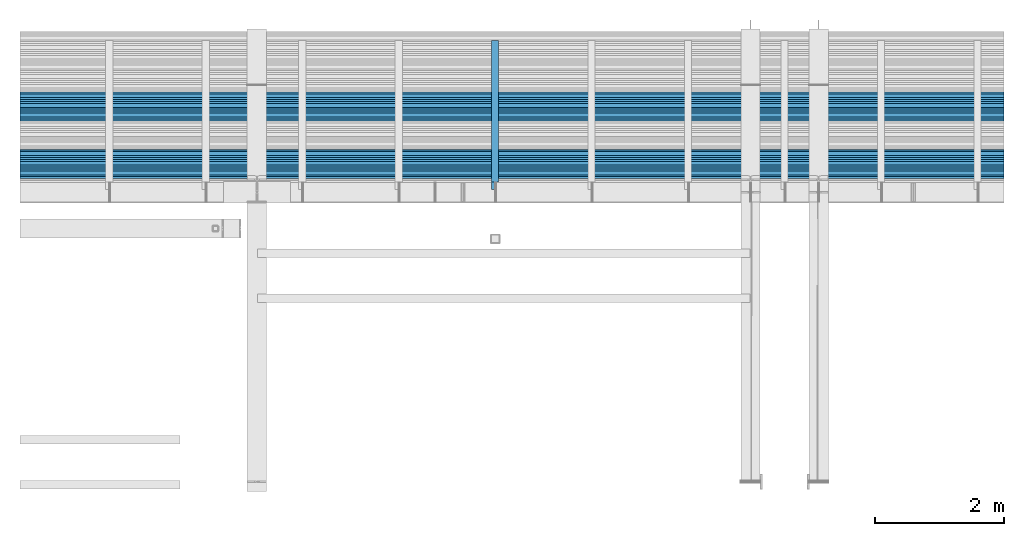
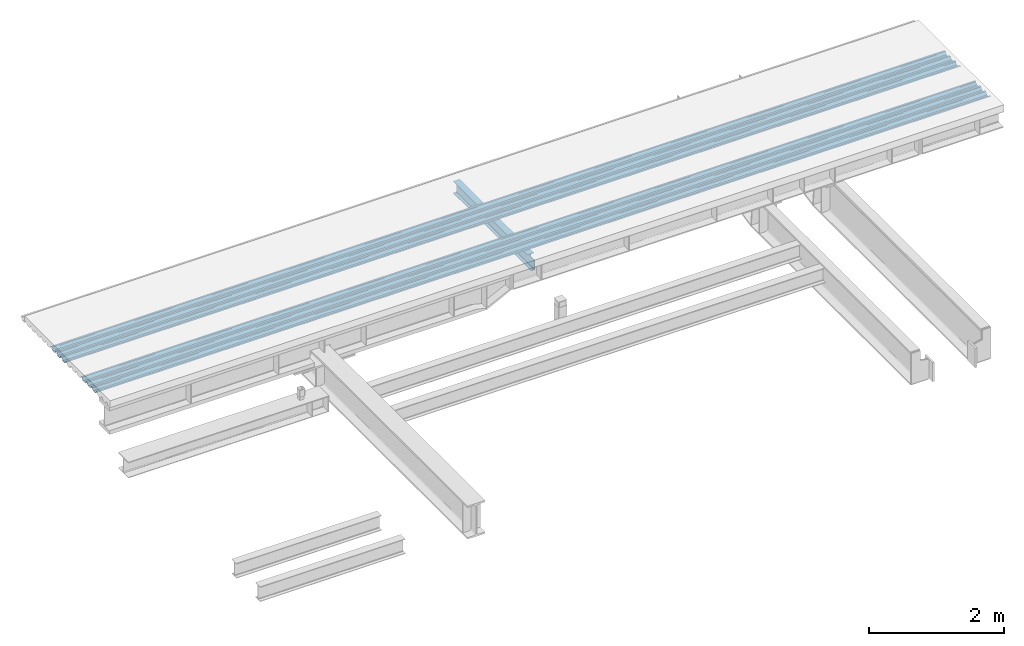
# One storey, part 8 of 12: 3 beams.
"""IFC2X3 building model written with IfcOpenShell, lengths in millimetres."""

import ifcopenshell
import ifcopenshell.guid

model = None  # the IFC model being written
_history = None  # IfcOwnerHistory: only IFC2X3 demands one
_inside = {}  # id of a spatial element -> (the spatial element, [elements in it])
_under = {}  # id of a project, library or spatial element -> (it, [spatial elements below it])
_declared = {}  # id of a project -> (the project, [libraries it declares])
_typed = {}  # id of a type object -> (the type object, [elements of that type])
_made_of = {}  # id of a material, layer set ... -> (it, [elements and type objects made of it])


def new_model(schema):
    """Start an empty IFC model of exactly this schema.

    Asked for "IFC4X3", IfcOpenShell would pick the latest addendum, in which some entities
    have other attributes; the version numbers below select the first issue.
    IFC2X3 requires an IfcOwnerHistory on every rooted entity: one is made here for all.
    """
    global model, _history
    if schema == "IFC4X3":
        model = ifcopenshell.file(schema_version=(4, 3, 0, 0))
    else:
        model = ifcopenshell.file(schema=schema)
    _inside.clear()
    _under.clear()
    _declared.clear()
    _typed.clear()
    _made_of.clear()
    _history = None
    if model.schema == "IFC2X3":
        org = make("IfcOrganization", Name="unknown")
        user = make(
            "IfcPersonAndOrganization",
            ThePerson=make("IfcPerson", FamilyName="unknown"),
            TheOrganization=org,
        )
        app = make(
            "IfcApplication",
            ApplicationDeveloper=org,
            Version="unknown",
            ApplicationFullName="unknown",
            ApplicationIdentifier="unknown",
        )
        _history = make(
            "IfcOwnerHistory",
            OwningUser=user,
            OwningApplication=app,
            ChangeAction="ADDED",
            CreationDate=0,
        )
    return model


def make(cls, **values):
    """One entity of the class cls with the attributes given. An attribute that is None is left unset."""
    return model.create_entity(
        cls, **{name: value for name, value in values.items() if value is not None}
    )


def entity(cls, *values):
    """Any entity or typed value of the class cls, its attributes in the order of the schema. None: left unset."""
    e = model.create_entity(cls)
    for i, value in enumerate(values):
        if value is not None:
            e[i] = value
    return e


def rooted(cls, **values):
    """An entity with a GlobalId (a new one), such as an element, a storey or a relation."""
    return make(cls, GlobalId=ifcopenshell.guid.new(), OwnerHistory=_history, **values)


def si_unit(unit_type, name, prefix=None):
    """IfcSIUnit, for example si_unit("LENGTHUNIT", "METRE", prefix="MILLI")."""
    return make("IfcSIUnit", UnitType=unit_type, Prefix=prefix, Name=name)


def converted_unit(unit_type, name, factor, base, dimensions=None, offset=None):
    """IfcConversionBasedUnit, such as the inch: factor (a typed value) times the base unit."""
    return make(
        "IfcConversionBasedUnit"
        if offset is None
        else "IfcConversionBasedUnitWithOffset",
        ConversionOffset=offset,
        Dimensions=None
        if dimensions is None
        else entity("IfcDimensionalExponents", *dimensions),
        UnitType=unit_type,
        Name=name,
        ConversionFactor=make(
            "IfcMeasureWithUnit", ValueComponent=factor, UnitComponent=base
        ),
    )


def derived_unit(unit_type, elements):
    """IfcDerivedUnit: a product of units, each with its exponent."""
    return make(
        "IfcDerivedUnit",
        Elements=[
            make("IfcDerivedUnitElement", Unit=unit, Exponent=power)
            for unit, power in elements
        ],
        UnitType=unit_type,
    )


def assignment(units):
    """IfcUnitAssignment: the units of a project."""
    return None if units is None else make("IfcUnitAssignment", Units=units)


def point(xyz):
    """IfcCartesianPoint."""
    return None if xyz is None else make("IfcCartesianPoint", Coordinates=xyz)


def direction(xyz):
    """IfcDirection."""
    return None if xyz is None else make("IfcDirection", DirectionRatios=xyz)


def frame(location, z_axis=None, x_axis=None):
    """IfcAxis2Placement3D, a coordinate frame: its origin and axes. An axis left out is left unset."""
    return make(
        "IfcAxis2Placement3D",
        Location=point(location),
        Axis=direction(z_axis),
        RefDirection=direction(x_axis),
    )


def origin_with_axes():
    """The frame at (0, 0, 0) with the z axis (0, 0, 1) and the x axis (1, 0, 0) written out."""
    return frame((0.0, 0.0, 0.0), z_axis=(0.0, 0.0, 1.0), x_axis=(1.0, 0.0, 0.0))


def place(relative_to, where):
    """IfcLocalPlacement: puts the frame where relative to a parent placement (None: the world)."""
    return make(
        "IfcLocalPlacement", PlacementRelTo=relative_to, RelativePlacement=where
    )


def context(
    kind, dimensions, precision=None, world=None, true_north=None, identifier=None
):
    """IfcGeometricRepresentationContext, for example the 3D "Model" context."""
    return make(
        "IfcGeometricRepresentationContext",
        ContextIdentifier=identifier,
        ContextType=kind,
        CoordinateSpaceDimension=dimensions,
        Precision=precision,
        WorldCoordinateSystem=world,
        TrueNorth=true_north,
    )


def subcontext(parent, identifier, kind, view, scale=None):
    """IfcGeometricRepresentationSubContext, for example "Body" below "Model"."""
    return make(
        "IfcGeometricRepresentationSubContext",
        ContextIdentifier=identifier,
        ContextType=kind,
        ParentContext=parent,
        TargetScale=scale,
        TargetView=view,
    )


def project(units=None, contexts=None):
    """IfcProject with its units and contexts."""
    return rooted(
        "IfcProject",
        Name="project",
        RepresentationContexts=contexts,
        UnitsInContext=assignment(units),
    )


def spatial(cls, under=None, at=None, **own):
    """A site, building, storey or space (cls), placed at a placement, below another one or the project."""
    s = rooted(cls, ObjectPlacement=at, **own)
    if under is not None:
        _under.setdefault(under.id(), (under, []))[1].append(s)
    return s


def faces_of(points, faces, orient=None, outer=None):
    """IfcFace entities. A face is a list of loops; a loop is a list of indices into points, from 0.

    orient and outer hold one flag for each loop. By default every Orientation is true, the
    first loop of a face is its IfcFaceOuterBound and the others are IfcFaceBound.
    """
    made = []
    for i, loops in enumerate(faces):
        bounds = []
        for j, loop in enumerate(loops):
            is_outer = j == 0 if outer is None else outer[i][j]
            bounds.append(
                make(
                    "IfcFaceOuterBound" if is_outer else "IfcFaceBound",
                    Bound=make("IfcPolyLoop", Polygon=[points[k] for k in loop]),
                    Orientation=True if orient is None else orient[i][j],
                )
            )
        made.append(make("IfcFace", Bounds=bounds))
    return made


def faceted_brep(points, faces, orient=None, outer=None, voids=None):
    """IfcFacetedBrep: a solid bounded by flat faces; with voids (closed shells), ...WithVoids."""
    shared = [point(p) for p in points]
    hull = make("IfcClosedShell", CfsFaces=faces_of(shared, faces, orient, outer))
    if voids is None:
        return make("IfcFacetedBrep", Outer=hull)
    return make(
        "IfcFacetedBrepWithVoids",
        Outer=hull,
        Voids=[
            make(cls, CfsFaces=faces_of(shared, fs, o, b)) for cls, fs, o, b in voids
        ],
    )


def shape(context_of_items, identifier, shape_type, items):
    """IfcShapeRepresentation: the items that make up one representation, for example the "Body"."""
    return make(
        "IfcShapeRepresentation",
        ContextOfItems=context_of_items,
        RepresentationIdentifier=identifier,
        RepresentationType=shape_type,
        Items=items,
    )


def made_of(thing, what):
    """Note that an element or type object is made of a material, layer set ...; save() writes the relation."""
    if what is not None:
        _made_of.setdefault(what.id(), (what, []))[1].append(thing)
    return thing


def type_object(cls, material=None, **own):
    """A type object (cls), such as IfcWallType, which elements share."""
    return made_of(rooted(cls, **own), material)


def element(
    cls,
    number,
    at=None,
    inside=None,
    cuts=None,
    type_object=None,
    material=None,
    context=None,
    identifier="Body",
    shape_type=None,
    held_by="IfcProductDefinitionShape",
    body=None,
    shapes=None,
    **own,
):
    """One element of the class cls, such as IfcWall. Its Tag is "e" and its number.

    at: its placement. inside: the storey or other place that contains it. cuts: it is an
    opening in that element (IfcRelVoidsElement). A single representation is given by context,
    identifier, shape_type and body (its items); several are given by shapes. held_by: the class
    of the entity that holds the representations. save() writes the other relations.
    """
    e = rooted(cls, Tag="e%d" % number, ObjectPlacement=at, **own)
    if body is not None:
        shapes = [shape(context, identifier, shape_type, body)]
    if shapes is not None:
        e.Representation = make(held_by, Representations=shapes)
    if inside is not None:
        _inside.setdefault(inside.id(), (inside, []))[1].append(e)
    if cuts is not None:
        rooted(
            "IfcRelVoidsElement", RelatingBuildingElement=cuts, RelatedOpeningElement=e
        )
    if type_object is not None:
        _typed.setdefault(type_object.id(), (type_object, []))[1].append(e)
    return made_of(e, material)


def aggregate(whole, parts):
    """IfcRelAggregates: a whole, such as a stair, and the parts it consists of."""
    return rooted("IfcRelAggregates", RelatingObject=whole, RelatedObjects=parts)


def save(model, path):
    """Write the relations noted so far, then the file.

    IfcRelAggregates (storeys below a building ...), IfcRelContainedInSpatialStructure (elements
    in a storey), IfcRelDefinesByType, IfcRelAssociatesMaterial and IfcRelDeclares: one each for
    every whole, place, type object, material and project.
    """
    for whole, parts in _under.values():
        aggregate(whole, parts)
    for where, things in _inside.values():
        rooted(
            "IfcRelContainedInSpatialStructure",
            RelatedElements=things,
            RelatingStructure=where,
        )
    for kind, things in _typed.values():
        rooted("IfcRelDefinesByType", RelatedObjects=things, RelatingType=kind)
    for what, things in _made_of.values():
        rooted("IfcRelAssociatesMaterial", RelatedObjects=things, RelatingMaterial=what)
    for by, libraries in _declared.values():
        rooted("IfcRelDeclares", RelatingContext=by, RelatedDefinitions=libraries)
    model.write(path)


model = new_model("IFC2X3")

# Units and contexts
model_context = context("Model", 3, precision=0.01, world=frame((0.0, 4.29681676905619e-09, 0.0)), true_north=direction((4.01073788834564e-13, 1.0)))
plan_context = context("Plan", 3, precision=0.01, world=frame((0.0, 4.29681676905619e-09, 0.0)), true_north=direction((4.01073788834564e-13, 1.0)))
body_context = subcontext(model_context, "Body", "Model", "MODEL_VIEW")
ifc_project = project(units=[converted_unit("PLANEANGLEUNIT", "DEGREE", entity("IfcPositiveLengthMeasure", 0.0174532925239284), si_unit("PLANEANGLEUNIT", "RADIAN"), dimensions=[0, 0, 0, 0, 0, 0, 0]), si_unit("AREAUNIT", "SQUARE_METRE"), si_unit("LENGTHUNIT", "METRE", prefix="MILLI"), si_unit("MASSUNIT", "GRAM", prefix="KILO"), si_unit("POWERUNIT", "WATT"), si_unit("PRESSUREUNIT", "PASCAL"), si_unit("FORCEUNIT", "NEWTON", prefix="KILO"), si_unit("ELECTRICVOLTAGEUNIT", "VOLT"), si_unit("ELECTRICCURRENTUNIT", "AMPERE"), si_unit("THERMODYNAMICTEMPERATUREUNIT", "DEGREE_CELSIUS"), si_unit("TIMEUNIT", "SECOND"), si_unit("VOLUMEUNIT", "CUBIC_METRE"), derived_unit("LINEARVELOCITYUNIT", [(si_unit("LENGTHUNIT", "METRE"), 1), (si_unit("TIMEUNIT", "SECOND"), -1)]), derived_unit("VOLUMETRICFLOWRATEUNIT", [(si_unit("VOLUMEUNIT", "CUBIC_METRE"), 1), (si_unit("TIMEUNIT", "SECOND"), -1)]), derived_unit("THERMALTRANSMITTANCEUNIT", [(si_unit("POWERUNIT", "WATT"), 1), (si_unit("THERMODYNAMICTEMPERATUREUNIT", "KELVIN"), -1), (si_unit("AREAUNIT", "SQUARE_METRE"), -1)]), derived_unit("SOUNDPRESSUREUNIT", [(si_unit("PRESSUREUNIT", "PASCAL"), 1)])], contexts=[model_context, plan_context])

# Site, building, storey
site_placement = place(None, frame((0.0, -4.29681676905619e-09, 0.0), z_axis=(0.0, 0.0, 1.0), x_axis=(1.0, 0.0, 0.0)))
site = spatial("IfcSite", under=ifc_project, at=site_placement, Name="Gardermoen", CompositionType="ELEMENT")
building_placement = place(site_placement, frame((0.0, 4.29681676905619e-09, 0.0), z_axis=(0.0, 0.0, 1.0), x_axis=(1.0, 0.0, 0.0)))
building = spatial("IfcBuilding", under=site, at=building_placement, Name="TH", CompositionType="ELEMENT")
storey_placement = place(building_placement, origin_with_axes())
storey = spatial("IfcBuildingStorey", under=building, at=storey_placement, Name="D", CompositionType="ELEMENT", Elevation=0.0)

# Beams
beam_type_1 = type_object("IfcBeamType", Name="PLANNJACD45_V", PredefinedType="NOTDEFINED")
beam_1_placement = place(storey_placement, frame((886883.999840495, 486354.057463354, 210062.950002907), z_axis=(0.0, 0.0, 1.0), x_axis=(1.0, 0.0, 0.0)))
element("IfcBeam", 1, at=beam_1_placement, inside=storey, type_object=beam_type_1, Name="STÅLDEKKE", ObjectType="PLANNJACD45_V", context=body_context, shape_type="Brep", body=[
    faceted_brep([(8227.90632807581, 236.350005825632, 22.0499992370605), (8227.90632807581, 206.350005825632, 22.0499992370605), (23526.585001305, 206.350005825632, 22.0499992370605), (23526.585001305, 236.350005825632, 22.0499992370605), (8227.90632807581, 199.249999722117, 14.9499998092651), (23526.585001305, 199.249999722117, 14.9499998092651), (8227.90632807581, 206.749999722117, 7.44999980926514), (23526.585001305, 206.749999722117, 7.44999980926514), (8227.90632807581, 176.349990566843, -22.9500026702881), (23526.585001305, 176.349990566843, -22.9500026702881), (8227.90632807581, 116.34999819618, -22.9500026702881), (23526.585001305, 116.34999819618, -22.9500026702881), (8227.90632807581, 85.9499966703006, 7.44999694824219), (23526.585001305, 85.9499966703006, 7.44999694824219), (8227.90632807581, 93.4499966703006, 14.9499998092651), (23526.585001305, 93.4499966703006, 14.9499998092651), (8227.90632807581, 86.3499981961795, 22.0499992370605), (23526.585001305, 86.3499981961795, 22.0499992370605), (8227.90632807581, 56.3500020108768, 22.0499935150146), (23526.585001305, 56.3500020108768, 22.0499935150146), (8227.90632807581, 49.250007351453, 14.9499998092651), (23526.585001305, 49.250007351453, 14.9499998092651), (8227.90632807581, 56.750007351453, 7.45000219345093), (23526.585001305, 56.750007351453, 7.45000219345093), (8227.90632807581, 26.3500039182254, -22.9500007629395), (23526.585001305, 26.3500039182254, -22.9500007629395), (8227.90632807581, -33.6499979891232, -22.9500007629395), (23526.585001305, -33.6499979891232, -22.9500007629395), (8227.90632807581, -64.0499957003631, 7.45000219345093), (23526.585001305, -64.0499957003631, 7.45000219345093), (8227.90632807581, -56.5500033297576, 14.9499998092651), (23526.585001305, -56.5500033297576, 14.9499998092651), (8227.90632807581, -63.6499979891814, 22.0499935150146), (23526.585001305, -63.6499979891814, 22.0499935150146), (8227.90632807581, -93.6500094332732, 22.0499935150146), (23526.585001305, -93.6500094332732, 22.0499935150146), (8227.90632807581, -100.750000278, 14.9499998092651), (23526.585001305, -100.750000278, 14.9499998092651), (8227.90632807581, -93.2500079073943, 7.45000219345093), (23526.585001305, -93.2500079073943, 7.45000219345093), (8227.90632807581, -123.649994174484, -22.9499893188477), (23526.585001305, -123.649994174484, -22.9499893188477), (8227.90632807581, -183.650009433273, -22.9500007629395), (23526.585001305, -183.650009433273, -22.9500007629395), (8227.90632807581, -214.050003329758, 7.45000219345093), (23526.585001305, -214.050003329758, 7.45000219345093), (8227.90632807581, -206.550018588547, 14.9499998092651), (23526.585001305, -206.550018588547, 14.9499998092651), (8227.90632807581, -213.649994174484, 22.0499839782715), (23526.585001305, -213.649994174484, 22.0499839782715), (8227.90632807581, -243.650009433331, 22.0500049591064), (23526.585001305, -243.650009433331, 22.0500049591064), (8227.90632807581, -244.050003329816, 22.949987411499), (23526.585001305, -244.050003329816, 22.949987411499), (8227.90632807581, -213.250000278, 22.8500099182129), (23526.585001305, -213.250000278, 22.8500099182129), (8227.90632807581, -205.349991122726, 14.9499998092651), (23526.585001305, -205.349991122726, 14.9499998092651), (8227.90632807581, -212.849991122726, 7.45000219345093), (23526.585001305, -212.849991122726, 7.45000219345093), (8227.90632807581, -183.250000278, -22.0499973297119), (23526.585001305, -183.250000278, -22.0499973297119), (8227.90632807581, -124.049995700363, -22.149995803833), (23526.585001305, -124.049995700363, -22.149995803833), (8227.90632807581, -94.4500048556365, 7.45000219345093), (23526.585001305, -94.4500048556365, 7.45000219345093), (8227.90632807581, -101.949997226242, 14.9499998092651), (23526.585001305, -101.949997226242, 14.9499998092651), (8227.90632807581, -94.0499957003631, 22.9499969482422), (23526.585001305, -94.0499957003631, 22.9499969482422), (8227.90632807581, -63.2500040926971, 22.8500003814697), (23526.585001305, -63.2500040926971, 22.8500003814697), (8227.90632807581, -55.3500063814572, 14.9499998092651), (23526.585001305, -55.3500063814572, 14.9499998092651), (8227.90632807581, -62.8500025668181, 7.45000219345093), (23526.585001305, -62.8500025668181, 7.45000219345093), (8227.90632807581, -33.2500040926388, -22.0499973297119), (23526.585001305, -33.2500040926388, -22.0499973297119), (8227.90632807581, 25.949994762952, -22.1499996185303), (23526.585001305, 25.949994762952, -22.1499996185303), (8227.90632807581, 55.5499913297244, 7.44999694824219), (23526.585001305, 55.5499913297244, 7.44999694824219), (8227.90632807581, 48.0499913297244, 14.9499998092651), (23526.585001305, 48.0499913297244, 14.9499998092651), (8227.90632807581, 55.9499966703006, 22.9500026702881), (23526.585001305, 55.9499966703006, 22.9500026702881), (8227.90632807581, 86.7499920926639, 22.8500003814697), (23526.585001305, 86.7499920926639, 22.8500003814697), (8227.90632807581, 94.6499936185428, 14.9499998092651), (23526.585001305, 94.6499936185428, 14.9499998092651), (8227.90632807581, 87.1500012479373, 7.45000219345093), (23526.585001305, 87.1500012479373, 7.45000219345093), (8227.90632807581, 116.749999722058, -22.0499992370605), (23526.585001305, 116.749999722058, -22.0499992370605), (8227.90632807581, 175.949996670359, -22.1500015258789), (23526.585001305, 175.949996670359, -22.1500015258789), (8227.90632807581, 205.550002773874, 7.44999837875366), (23526.585001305, 205.550002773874, 7.44999837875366), (8227.90632807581, 198.050002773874, 14.9499998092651), (23526.585001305, 198.050002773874, 14.9499998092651), (8227.90632807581, 205.949996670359, 22.9500007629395), (23526.585001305, 205.949996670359, 22.9500007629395), (8227.90632807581, 236.749999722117, 22.8500003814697), (23526.585001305, 236.749999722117, 22.8500003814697), (8227.90632807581, 244.050002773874, 15.5499992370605), (23526.585001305, 244.050002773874, 15.5499992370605), (8227.90632807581, 243.449996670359, 14.9499998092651), (23526.585001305, 243.449996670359, 14.9499998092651)], [[[0, 1, 2, 3]], [[1, 4, 5, 2]], [[4, 6, 7, 5]], [[6, 8, 9, 7]], [[8, 10, 11, 9]], [[10, 12, 13, 11]], [[12, 14, 15, 13]], [[14, 16, 17, 15]], [[16, 18, 19, 17]], [[18, 20, 21, 19]], [[20, 22, 23, 21]], [[22, 24, 25, 23]], [[24, 26, 27, 25]], [[26, 28, 29, 27]], [[28, 30, 31, 29]], [[30, 32, 33, 31]], [[32, 34, 35, 33]], [[34, 36, 37, 35]], [[36, 38, 39, 37]], [[38, 40, 41, 39]], [[40, 42, 43, 41]], [[42, 44, 45, 43]], [[44, 46, 47, 45]], [[46, 48, 49, 47]], [[48, 50, 51, 49]], [[50, 52, 53, 51]], [[52, 54, 55, 53]], [[54, 56, 57, 55]], [[56, 58, 59, 57]], [[58, 60, 61, 59]], [[60, 62, 63, 61]], [[62, 64, 65, 63]], [[64, 66, 67, 65]], [[66, 68, 69, 67]], [[68, 70, 71, 69]], [[70, 72, 73, 71]], [[72, 74, 75, 73]], [[74, 76, 77, 75]], [[76, 78, 79, 77]], [[78, 80, 81, 79]], [[80, 82, 83, 81]], [[82, 84, 85, 83]], [[84, 86, 87, 85]], [[86, 88, 89, 87]], [[88, 90, 91, 89]], [[90, 92, 93, 91]], [[92, 94, 95, 93]], [[94, 96, 97, 95]], [[96, 98, 99, 97]], [[98, 100, 101, 99]], [[100, 102, 103, 101]], [[102, 104, 105, 103]], [[104, 106, 107, 105]], [[106, 0, 3, 107]], [[5, 7, 9, 11, 13, 15, 17, 19, 21, 23, 25, 27, 29, 31, 33, 35, 37, 39, 41, 43, 45, 47, 49, 51, 53, 55, 57, 59, 61, 63, 65, 67, 69, 71, 73, 75, 77, 79, 81, 83, 85, 87, 89, 91, 93, 95, 97, 99, 101, 103, 105, 107, 3, 2]], [[106, 104, 102, 100, 98, 96, 94, 92, 90, 88, 86, 84, 82, 80, 78, 76, 74, 72, 70, 68, 66, 64, 62, 60, 58, 56, 54, 52, 50, 48, 46, 44, 42, 40, 38, 36, 34, 32, 30, 28, 26, 24, 22, 20, 18, 16, 14, 12, 10, 8, 6, 4, 1, 0]]], orient=[[False], [False], [False], [False], [False], [False], [False], [False], [False], [False], [False], [False], [False], [False], [False], [False], [False], [False], [False], [False], [False], [False], [False], [False], [False], [False], [False], [False], [False], [False], [False], [False], [False], [False], [False], [False], [False], [False], [False], [False], [False], [False], [False], [False], [False], [False], [False], [False], [False], [False], [False], [False], [False], [False], [False], [False]]),
])
beam_2_placement = place(storey_placement, frame((886883.999840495, 485454.457463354, 210062.950002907), z_axis=(0.0, 0.0, 1.0), x_axis=(1.0, 0.0, 0.0)))
element("IfcBeam", 2, at=beam_2_placement, inside=storey, type_object=beam_type_1, Name="STÅLDEKKE", ObjectType="PLANNJACD45_V", context=body_context, shape_type="Brep", body=[
    faceted_brep([(8227.90632807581, 236.350005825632, 22.0499992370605), (8227.90632807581, 206.350005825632, 22.0499992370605), (23526.585001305, 206.350005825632, 22.0499992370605), (23526.585001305, 236.350005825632, 22.0499992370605), (8227.90632807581, 199.249999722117, 14.9499998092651), (23526.585001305, 199.249999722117, 14.9499998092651), (8227.90632807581, 206.749999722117, 7.44999980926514), (23526.585001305, 206.749999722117, 7.44999980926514), (8227.90632807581, 176.349990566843, -22.9500026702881), (23526.585001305, 176.349990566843, -22.9500026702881), (8227.90632807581, 116.34999819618, -22.9500026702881), (23526.585001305, 116.34999819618, -22.9500026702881), (8227.90632807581, 85.9499966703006, 7.44999694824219), (23526.585001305, 85.9499966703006, 7.44999694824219), (8227.90632807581, 93.4499966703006, 14.9499998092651), (23526.585001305, 93.4499966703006, 14.9499998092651), (8227.90632807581, 86.3499981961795, 22.0499992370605), (23526.585001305, 86.3499981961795, 22.0499992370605), (8227.90632807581, 56.3500020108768, 22.0499935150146), (23526.585001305, 56.3500020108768, 22.0499935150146), (8227.90632807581, 49.250007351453, 14.9499998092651), (23526.585001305, 49.250007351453, 14.9499998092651), (8227.90632807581, 56.750007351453, 7.45000219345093), (23526.585001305, 56.750007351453, 7.45000219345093), (8227.90632807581, 26.3500039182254, -22.9500007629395), (23526.585001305, 26.3500039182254, -22.9500007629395), (8227.90632807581, -33.6499979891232, -22.9500007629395), (23526.585001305, -33.6499979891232, -22.9500007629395), (8227.90632807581, -64.0499957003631, 7.45000219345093), (23526.585001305, -64.0499957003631, 7.45000219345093), (8227.90632807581, -56.5500033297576, 14.9499998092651), (23526.585001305, -56.5500033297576, 14.9499998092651), (8227.90632807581, -63.6499979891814, 22.0499935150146), (23526.585001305, -63.6499979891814, 22.0499935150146), (8227.90632807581, -93.6500094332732, 22.0499935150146), (23526.585001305, -93.6500094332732, 22.0499935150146), (8227.90632807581, -100.750000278, 14.9499998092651), (23526.585001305, -100.750000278, 14.9499998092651), (8227.90632807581, -93.2500079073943, 7.45000219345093), (23526.585001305, -93.2500079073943, 7.45000219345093), (8227.90632807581, -123.649994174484, -22.9499893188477), (23526.585001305, -123.649994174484, -22.9499893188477), (8227.90632807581, -183.650009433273, -22.9500007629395), (23526.585001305, -183.650009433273, -22.9500007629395), (8227.90632807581, -214.050003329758, 7.45000219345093), (23526.585001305, -214.050003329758, 7.45000219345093), (8227.90632807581, -206.550018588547, 14.9499998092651), (23526.585001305, -206.550018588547, 14.9499998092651), (8227.90632807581, -213.649994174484, 22.0499839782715), (23526.585001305, -213.649994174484, 22.0499839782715), (8227.90632807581, -243.650009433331, 22.0500049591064), (23526.585001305, -243.650009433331, 22.0500049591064), (8227.90632807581, -244.050003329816, 22.949987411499), (23526.585001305, -244.050003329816, 22.949987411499), (8227.90632807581, -213.250000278, 22.8500099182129), (23526.585001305, -213.250000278, 22.8500099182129), (8227.90632807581, -205.349991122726, 14.9499998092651), (23526.585001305, -205.349991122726, 14.9499998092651), (8227.90632807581, -212.849991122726, 7.45000219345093), (23526.585001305, -212.849991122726, 7.45000219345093), (8227.90632807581, -183.250000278, -22.0499973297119), (23526.585001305, -183.250000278, -22.0499973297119), (8227.90632807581, -124.049995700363, -22.149995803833), (23526.585001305, -124.049995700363, -22.149995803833), (8227.90632807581, -94.4500048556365, 7.45000219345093), (23526.585001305, -94.4500048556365, 7.45000219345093), (8227.90632807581, -101.949997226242, 14.9499998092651), (23526.585001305, -101.949997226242, 14.9499998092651), (8227.90632807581, -94.0499957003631, 22.9499969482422), (23526.585001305, -94.0499957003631, 22.9499969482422), (8227.90632807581, -63.2500040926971, 22.8500003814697), (23526.585001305, -63.2500040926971, 22.8500003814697), (8227.90632807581, -55.3500063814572, 14.9499998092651), (23526.585001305, -55.3500063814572, 14.9499998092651), (8227.90632807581, -62.8500025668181, 7.45000219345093), (23526.585001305, -62.8500025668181, 7.45000219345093), (8227.90632807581, -33.2500040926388, -22.0499973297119), (23526.585001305, -33.2500040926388, -22.0499973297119), (8227.90632807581, 25.949994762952, -22.1499996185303), (23526.585001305, 25.949994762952, -22.1499996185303), (8227.90632807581, 55.5499913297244, 7.44999694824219), (23526.585001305, 55.5499913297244, 7.44999694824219), (8227.90632807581, 48.0499913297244, 14.9499998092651), (23526.585001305, 48.0499913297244, 14.9499998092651), (8227.90632807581, 55.9499966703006, 22.9500026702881), (23526.585001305, 55.9499966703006, 22.9500026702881), (8227.90632807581, 86.7499920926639, 22.8500003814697), (23526.585001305, 86.7499920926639, 22.8500003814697), (8227.90632807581, 94.6499936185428, 14.9499998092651), (23526.585001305, 94.6499936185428, 14.9499998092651), (8227.90632807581, 87.1500012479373, 7.45000219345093), (23526.585001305, 87.1500012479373, 7.45000219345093), (8227.90632807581, 116.749999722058, -22.0499992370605), (23526.585001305, 116.749999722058, -22.0499992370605), (8227.90632807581, 175.949996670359, -22.1500015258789), (23526.585001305, 175.949996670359, -22.1500015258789), (8227.90632807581, 205.550002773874, 7.44999837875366), (23526.585001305, 205.550002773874, 7.44999837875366), (8227.90632807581, 198.050002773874, 14.9499998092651), (23526.585001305, 198.050002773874, 14.9499998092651), (8227.90632807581, 205.949996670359, 22.9500007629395), (23526.585001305, 205.949996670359, 22.9500007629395), (8227.90632807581, 236.749999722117, 22.8500003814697), (23526.585001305, 236.749999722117, 22.8500003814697), (8227.90632807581, 244.050002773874, 15.5499992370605), (23526.585001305, 244.050002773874, 15.5499992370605), (8227.90632807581, 243.449996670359, 14.9499998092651), (23526.585001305, 243.449996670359, 14.9499998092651)], [[[0, 1, 2, 3]], [[1, 4, 5, 2]], [[4, 6, 7, 5]], [[6, 8, 9, 7]], [[8, 10, 11, 9]], [[10, 12, 13, 11]], [[12, 14, 15, 13]], [[14, 16, 17, 15]], [[16, 18, 19, 17]], [[18, 20, 21, 19]], [[20, 22, 23, 21]], [[22, 24, 25, 23]], [[24, 26, 27, 25]], [[26, 28, 29, 27]], [[28, 30, 31, 29]], [[30, 32, 33, 31]], [[32, 34, 35, 33]], [[34, 36, 37, 35]], [[36, 38, 39, 37]], [[38, 40, 41, 39]], [[40, 42, 43, 41]], [[42, 44, 45, 43]], [[44, 46, 47, 45]], [[46, 48, 49, 47]], [[48, 50, 51, 49]], [[50, 52, 53, 51]], [[52, 54, 55, 53]], [[54, 56, 57, 55]], [[56, 58, 59, 57]], [[58, 60, 61, 59]], [[60, 62, 63, 61]], [[62, 64, 65, 63]], [[64, 66, 67, 65]], [[66, 68, 69, 67]], [[68, 70, 71, 69]], [[70, 72, 73, 71]], [[72, 74, 75, 73]], [[74, 76, 77, 75]], [[76, 78, 79, 77]], [[78, 80, 81, 79]], [[80, 82, 83, 81]], [[82, 84, 85, 83]], [[84, 86, 87, 85]], [[86, 88, 89, 87]], [[88, 90, 91, 89]], [[90, 92, 93, 91]], [[92, 94, 95, 93]], [[94, 96, 97, 95]], [[96, 98, 99, 97]], [[98, 100, 101, 99]], [[100, 102, 103, 101]], [[102, 104, 105, 103]], [[104, 106, 107, 105]], [[106, 0, 3, 107]], [[5, 7, 9, 11, 13, 15, 17, 19, 21, 23, 25, 27, 29, 31, 33, 35, 37, 39, 41, 43, 45, 47, 49, 51, 53, 55, 57, 59, 61, 63, 65, 67, 69, 71, 73, 75, 77, 79, 81, 83, 85, 87, 89, 91, 93, 95, 97, 99, 101, 103, 105, 107, 3, 2]], [[106, 104, 102, 100, 98, 96, 94, 92, 90, 88, 86, 84, 82, 80, 78, 76, 74, 72, 70, 68, 66, 64, 62, 60, 58, 56, 54, 52, 50, 48, 46, 44, 42, 40, 38, 36, 34, 32, 30, 28, 26, 24, 22, 20, 18, 16, 14, 12, 10, 8, 6, 4, 1, 0]]], orient=[[False], [False], [False], [False], [False], [False], [False], [False], [False], [False], [False], [False], [False], [False], [False], [False], [False], [False], [False], [False], [False], [False], [False], [False], [False], [False], [False], [False], [False], [False], [False], [False], [False], [False], [False], [False], [False], [False], [False], [False], [False], [False], [False], [False], [False], [False], [False], [False], [False], [False], [False], [False], [False], [False], [False], [False]]),
])
beam_type_2 = type_object("IfcBeamType", Name="IPE220", PredefinedType="NOTDEFINED")
beam_3_placement = place(storey_placement, frame((902499.999781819, 484999.995625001, 209930.0), z_axis=(0.0, 0.0, 1.0), x_axis=(0.0, 1.0, 0.0)))
element("IfcBeam", 3, at=beam_3_placement, inside=storey, type_object=beam_type_2, Name="STÅLBJELKE", ObjectType="IPE220", context=body_context, shape_type="Brep", body=[
    faceted_brep([(2357.65437500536, -55.0, -110.0), (2357.65437500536, 55.0, -110.0), (39.9999999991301, 55.0, -110.0), (39.9999999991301, -2.95000004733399, -110.0), (159.99999999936, -2.95000004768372, -110.0), (159.99999999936, -55.0, -110.0), (2357.65437500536, -55.0, -100.800000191), (159.99999999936, -55.0, -100.800000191), (2357.65437500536, -14.9500000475, -100.800000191), (159.99999999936, -14.9500000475, -100.800000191), (2357.65437500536, -12.6089161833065, -100.569423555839), (159.99999999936, -12.6089161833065, -100.569423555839), (2357.65437500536, -10.3577988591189, -99.8865545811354), (159.99999999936, -10.3577988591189, -99.8865545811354), (2357.65437500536, -8.28315725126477, -98.7776355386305), (159.99999999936, -8.28315725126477, -98.7776355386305), (2357.65437500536, -6.46471867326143, -97.2852815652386), (159.99999999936, -6.46471867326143, -97.2852815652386), (2357.65437500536, -4.97236469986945, -95.4668429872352), (159.99999999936, -4.97236469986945, -95.4668429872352), (2357.65437500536, -3.86344565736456, -93.3922013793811), (159.99999999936, -3.86344565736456, -93.3922013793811), (2357.65437500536, -3.18057668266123, -91.1410840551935), (159.99999999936, -3.18057668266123, -91.1410840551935), (2357.65437500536, -2.9500000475, -88.800000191), (159.99999999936, -2.96969830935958, -89.0), (39.9999999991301, -2.96969830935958, -89.0), (39.9999999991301, -2.9500000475, -88.800000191), (2357.65437500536, -2.9500000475, 88.800000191), (39.9999999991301, -2.9500000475, 70.0), (149.999999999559, -2.9500000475, 69.9999999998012), (151.564344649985, -2.9500000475, 70.1231165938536), (153.090169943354, -2.9500000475, 70.4894348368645), (154.539904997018, -2.9500000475, 71.0899347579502), (155.877852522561, -2.9500000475, 71.9098300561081), (157.071067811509, -2.9500000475, 72.9289321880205), (158.090169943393, -2.9500000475, 74.1221474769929), (158.910065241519, -2.9500000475, 75.4600950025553), (159.510565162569, -2.9500000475, 76.9098300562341), (159.876883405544, -2.9500000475, 78.435655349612), (159.999999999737, -2.9500000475, 79.999999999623), (159.999999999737, -2.9500000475, 88.800000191), (2357.65437500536, -3.18057668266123, 91.1410840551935), (159.999999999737, -3.18057668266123, 91.1410840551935), (2357.65437500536, -3.86344565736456, 93.3922013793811), (159.999999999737, -3.86344565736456, 93.3922013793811), (2357.65437500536, -4.97236469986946, 95.4668429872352), (159.999999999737, -4.97236469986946, 95.4668429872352), (2357.65437500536, -6.46471867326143, 97.2852815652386), (159.999999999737, -6.46471867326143, 97.2852815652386), (2357.65437500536, -8.28315725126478, 98.7776355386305), (159.999999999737, -8.28315725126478, 98.7776355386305), (2357.65437500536, -10.3577988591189, 99.8865545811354), (159.999999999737, -10.3577988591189, 99.8865545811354), (2357.65437500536, -12.6089161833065, 100.569423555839), (159.999999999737, -12.6089161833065, 100.569423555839), (2357.65437500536, -14.9500000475, 100.800000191), (159.999999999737, -14.9500000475, 100.800000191), (2357.65437500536, -55.0, 100.800000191), (159.999999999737, -55.0, 100.800000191), (2357.65437500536, -55.0, 110.0), (159.999999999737, -55.0, 110.0), (2357.65437500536, 55.0, 110.0), (159.999999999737, 55.0, 110.0), (2357.65437500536, 55.0, 100.800000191), (159.999999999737, 55.0, 100.800000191), (2357.65437500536, 14.9500000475, 100.800000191), (159.999999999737, 14.9500000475, 100.800000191), (2357.65437500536, 12.6089161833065, 100.569423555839), (159.999999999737, 12.6089161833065, 100.569423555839), (2357.65437500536, 10.3577988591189, 99.8865545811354), (159.999999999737, 10.3577988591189, 99.8865545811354), (2357.65437500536, 8.28315725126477, 98.7776355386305), (159.999999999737, 8.28315725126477, 98.7776355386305), (2357.65437500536, 6.46471867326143, 97.2852815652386), (159.999999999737, 6.46471867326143, 97.2852815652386), (2357.65437500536, 4.97236469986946, 95.4668429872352), (159.999999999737, 4.97236469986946, 95.4668429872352), (2357.65437500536, 3.86344565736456, 93.3922013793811), (159.999999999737, 3.86344565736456, 93.3922013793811), (2357.65437500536, 3.18057668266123, 91.1410840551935), (159.999999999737, 3.18057668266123, 91.1410840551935), (2357.65437500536, 2.9500000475, 88.800000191), (159.999999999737, 2.9500000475, 88.800000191), (2357.65437500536, 2.9500000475, -88.800000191), (159.999999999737, 2.95000004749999, 79.999999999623), (159.876883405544, 2.95000004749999, 78.435655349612), (159.510565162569, 2.95000004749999, 76.9098300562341), (158.910065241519, 2.95000004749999, 75.4600950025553), (158.090169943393, 2.95000004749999, 74.1221474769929), (157.071067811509, 2.95000004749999, 72.9289321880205), (155.877852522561, 2.95000004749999, 71.9098300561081), (154.539904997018, 2.95000004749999, 71.0899347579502), (153.090169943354, 2.95000004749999, 70.4894348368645), (151.564344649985, 2.95000004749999, 70.1231165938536), (149.999999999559, 2.95000004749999, 69.9999999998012), (39.9999999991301, 2.9500000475, 70.0), (39.9999999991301, 2.9500000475, -88.800000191), (2357.65437500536, 3.18057668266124, -91.1410840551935), (39.9999999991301, 3.18057668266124, -91.1410840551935), (2357.65437500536, 3.86344565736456, -93.3922013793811), (39.9999999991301, 3.86344565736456, -93.3922013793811), (2357.65437500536, 4.97236469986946, -95.4668429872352), (39.9999999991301, 4.97236469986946, -95.4668429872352), (2357.65437500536, 6.46471867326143, -97.2852815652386), (39.9999999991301, 6.46471867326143, -97.2852815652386), (2357.65437500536, 8.28315725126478, -98.7776355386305), (39.9999999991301, 8.28315725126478, -98.7776355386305), (2357.65437500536, 10.3577988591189, -99.8865545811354), (39.9999999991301, 10.3577988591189, -99.8865545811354), (2357.65437500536, 12.6089161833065, -100.569423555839), (39.9999999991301, 12.6089161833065, -100.569423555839), (2357.65437500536, 14.9500000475, -100.800000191), (39.9999999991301, 14.9500000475, -100.800000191), (2357.65437500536, 55.0, -100.800000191), (39.9999999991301, 55.0, -100.800000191), (159.99999999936, -2.95000004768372, -89.0), (39.9999999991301, -2.95000004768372, -89.0)], [[[0, 1, 2, 3, 4, 5]], [[6, 0, 5, 7]], [[8, 6, 7, 9]], [[10, 8, 9, 11]], [[12, 10, 11, 13]], [[14, 12, 13, 15]], [[16, 14, 15, 17]], [[18, 16, 17, 19]], [[20, 18, 19, 21]], [[22, 20, 21, 23]], [[24, 22, 23, 25, 26, 27]], [[28, 24, 27, 29, 30, 31, 32, 33, 34, 35, 36, 37, 38, 39, 40, 41]], [[42, 28, 41, 43]], [[44, 42, 43, 45]], [[46, 44, 45, 47]], [[48, 46, 47, 49]], [[50, 48, 49, 51]], [[52, 50, 51, 53]], [[54, 52, 53, 55]], [[56, 54, 55, 57]], [[58, 56, 57, 59]], [[60, 58, 59, 61]], [[62, 60, 61, 63]], [[64, 62, 63, 65]], [[66, 64, 65, 67]], [[68, 66, 67, 69]], [[70, 68, 69, 71]], [[72, 70, 71, 73]], [[74, 72, 73, 75]], [[76, 74, 75, 77]], [[78, 76, 77, 79]], [[80, 78, 79, 81]], [[82, 80, 81, 83]], [[84, 82, 83, 85, 86, 87, 88, 89, 90, 91, 92, 93, 94, 95, 96, 97]], [[98, 84, 97, 99]], [[100, 98, 99, 101]], [[102, 100, 101, 103]], [[104, 102, 103, 105]], [[106, 104, 105, 107]], [[108, 106, 107, 109]], [[110, 108, 109, 111]], [[112, 110, 111, 113]], [[114, 112, 113, 115]], [[1, 114, 115, 2]], [[116, 25, 23, 21, 19, 17, 15, 13, 11, 9, 7, 5, 4]], [[116, 117, 26, 25]], [[116, 4, 3, 117]], [[30, 29, 96, 95]], [[95, 94, 31, 30]], [[94, 93, 32, 31]], [[93, 92, 33, 32]], [[92, 91, 34, 33]], [[91, 90, 35, 34]], [[90, 89, 36, 35]], [[89, 88, 37, 36]], [[88, 87, 38, 37]], [[87, 86, 39, 38]], [[86, 85, 40, 39]], [[85, 83, 81, 79, 77, 75, 73, 71, 69, 67, 65, 63, 61, 59, 57, 55, 53, 51, 49, 47, 45, 43, 41, 40]], [[26, 117, 3, 2, 115, 113, 111, 109, 107, 105, 103, 101, 99, 97, 96, 29, 27]], [[6, 8, 10, 12, 14, 16, 18, 20, 22, 24, 28, 42, 44, 46, 48, 50, 52, 54, 56, 58, 60, 62, 64, 66, 68, 70, 72, 74, 76, 78, 80, 82, 84, 98, 100, 102, 104, 106, 108, 110, 112, 114, 1, 0]]], orient=[[False], [False], [False], [False], [False], [False], [False], [False], [False], [False], [False], [False], [False], [False], [False], [False], [False], [False], [False], [False], [False], [False], [False], [False], [False], [False], [False], [False], [False], [False], [False], [False], [False], [False], [False], [False], [False], [False], [False], [False], [False], [False], [False], [False], [False], [False], [False], [False], [False], [False], [False], [False], [False], [False], [False], [False], [False], [False], [False], [False], [False]]),
])

save(model, "model.ifc")
